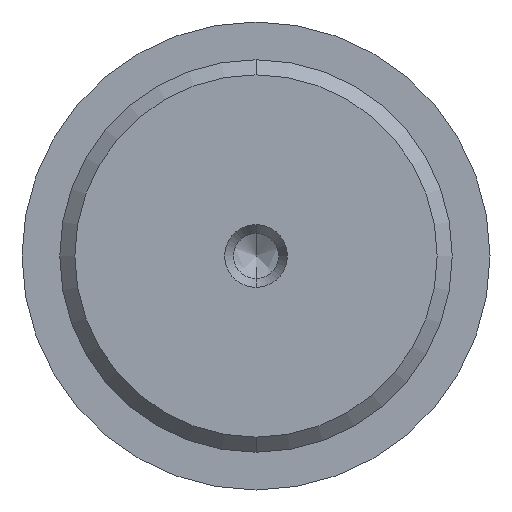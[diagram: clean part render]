
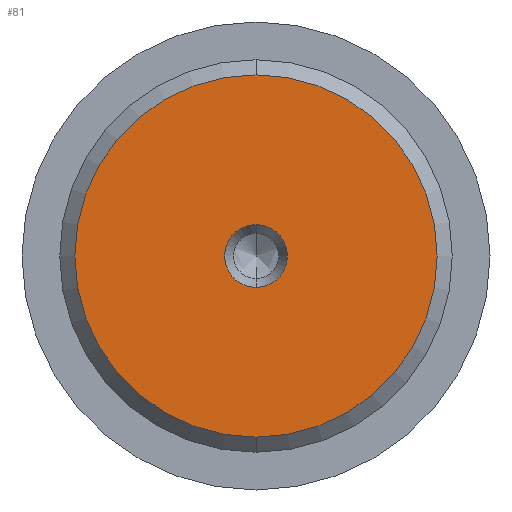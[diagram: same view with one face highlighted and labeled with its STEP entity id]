
A CAD part, left-side view. The second image highlights one B-rep face of the part: STEP entity #81.
In plain terms, the highlighted free-form (B-spline) face has degree [1, 1] with [2, 2] control points.
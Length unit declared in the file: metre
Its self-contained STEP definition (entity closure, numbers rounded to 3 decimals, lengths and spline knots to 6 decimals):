
#81 = ADVANCED_FACE( '', ( #143, #144 ), #145, .F. );
#143 = FACE_BOUND( '', #267, .T. );
#144 = FACE_OUTER_BOUND( '', #268, .T. );
#145 = B_SPLINE_SURFACE_WITH_KNOTS( '', 1, 1, ( ( #269, #270 ), ( #271, #272 ) ), .UNSPECIFIED., .F., .F., .F., ( 2, 2 ), ( 2, 2 ), ( 0., 1. ), ( 0., 1. ), .UNSPECIFIED. );
#267 = EDGE_LOOP( '', ( #729, #730 ) );
#268 = EDGE_LOOP( '', ( #731, #732 ) );
#269 = CARTESIAN_POINT( '', ( 0., -0.012144, 0.012144 ) );
#270 = CARTESIAN_POINT( '', ( 0., 0.012144, 0.012144 ) );
#271 = CARTESIAN_POINT( '', ( 0., -0.012144, -0.012144 ) );
#272 = CARTESIAN_POINT( '', ( 0., 0.012144, -0.012144 ) );
#729 = ORIENTED_EDGE( '', *, *, #1073, .F. );
#730 = ORIENTED_EDGE( '', *, *, #1074, .F. );
#731 = ORIENTED_EDGE( '', *, *, #1072, .T. );
#732 = ORIENTED_EDGE( '', *, *, #1066, .T. );
#1066 = EDGE_CURVE( '', #1179, #1180, #1181, .F. );
#1072 = EDGE_CURVE( '', #1180, #1179, #1189, .F. );
#1073 = EDGE_CURVE( '', #1190, #1191, #1192, .T. );
#1074 = EDGE_CURVE( '', #1191, #1190, #1193, .T. );
#1179 = VERTEX_POINT( '', #1355 );
#1180 = VERTEX_POINT( '', #1356 );
#1181 = CIRCLE( '', #1357, 0.012 );
#1189 = CIRCLE( '', #1367, 0.012 );
#1190 = VERTEX_POINT( '', #1368 );
#1191 = VERTEX_POINT( '', #1369 );
#1192 = CIRCLE( '', #1370, 0.002077 );
#1193 = CIRCLE( '', #1371, 0.002077 );
#1355 = CARTESIAN_POINT( '', ( 0., 0., -0.012 ) );
#1356 = CARTESIAN_POINT( '', ( 0., 0., 0.012 ) );
#1357 = AXIS2_PLACEMENT_3D( '', #1582, #1583, #1584 );
#1367 = AXIS2_PLACEMENT_3D( '', #1596, #1597, #1598 );
#1368 = CARTESIAN_POINT( '', ( 0., 0., -0.002077 ) );
#1369 = CARTESIAN_POINT( '', ( 0., 0., 0.002077 ) );
#1370 = AXIS2_PLACEMENT_3D( '', #1599, #1600, #1601 );
#1371 = AXIS2_PLACEMENT_3D( '', #1602, #1603, #1604 );
#1582 = CARTESIAN_POINT( '', ( 0., 0., 0. ) );
#1583 = DIRECTION( '', ( 1., 0., 0. ) );
#1584 = DIRECTION( '', ( 0., 0., -1. ) );
#1596 = CARTESIAN_POINT( '', ( 0., 0., 0. ) );
#1597 = DIRECTION( '', ( 1., 0., 0. ) );
#1598 = DIRECTION( '', ( 0., 0., -1. ) );
#1599 = CARTESIAN_POINT( '', ( 0., 0., 0. ) );
#1600 = DIRECTION( '', ( -1., 0., 0. ) );
#1601 = DIRECTION( '', ( 0., 0., 1. ) );
#1602 = CARTESIAN_POINT( '', ( 0., 0., 0. ) );
#1603 = DIRECTION( '', ( -1., 0., 0. ) );
#1604 = DIRECTION( '', ( 0., 0., 1. ) );
